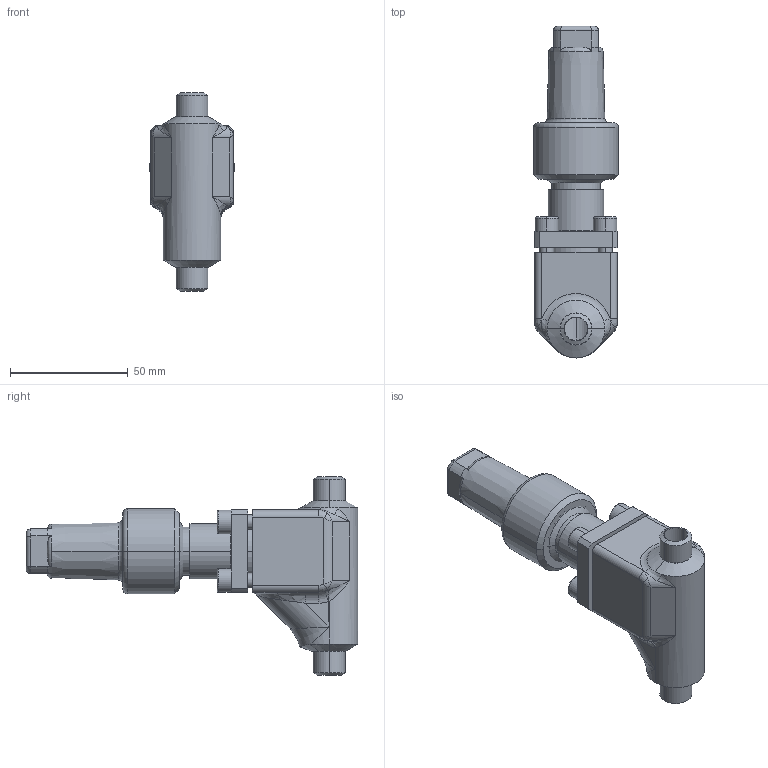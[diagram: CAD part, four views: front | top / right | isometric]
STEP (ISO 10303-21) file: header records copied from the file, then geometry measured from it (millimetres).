
FILE_DESCRIPTION (( 'STEP AP214' ), '1' );
FILE_NAME ('HRAR92300-DN008_R1_PS40.STEP', '2006-05-02T07:16:24', ( 'Herr Grams' ), ( 'AWP GmbH' ), 'SwSTEP 2.0', 'SolidWorks 2002296', '' );
FILE_SCHEMA (( 'AUTOMOTIVE_DESIGN' ));
Length unit declared in the file: millimetre
Products named in the file (6): HRAR92300-DN008_R1_PS40; Gehäuse96300E07-DN08_PS40_R1_Standard; Kappe96300E10_DN6-20_Standard; AVR96300E10_Deck+Schr-DN6-15_Standard; Deckel96300E10-DN6-15_PS40_Standard; Zylinderschraube-DIN912_M 6x 18
Assembly tree (8 placements, depth 3):
  HRAR92300-DN008_R1_PS40
    Kappe96300E10_DN6-20_Standard
    AVR96300E10_Deck+Schr-DN6-15_Standard
      Deckel96300E10-DN6-15_PS40_Standard
      Zylinderschraube-DIN912_M 6x 18  x4
    Gehäuse96300E07-DN08_PS40_R1_Standard
Bounding box: 36 x 140.7 x 84 mm (x, y, z)
Volume: 107099.9 mm3; surface area: 34893.2 mm2
Topology: 7 solids, 7 shells, 255 faces, 586 edges, 357 vertices
Faces by surface type: cylinder 90, plane 87, cone 29, bspline 25, torus 24
Entity records: 17646 total; most frequent: CARTESIAN_POINT 12514, DIRECTION 931, ORIENTED_EDGE 928, EDGE_CURVE 464, AXIS2_PLACEMENT_3D 384, VERTEX_POINT 285, EDGE_LOOP 227, ADVANCED_FACE 201
